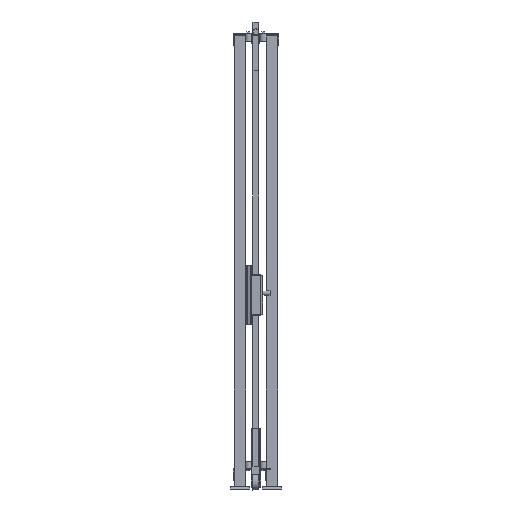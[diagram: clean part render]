
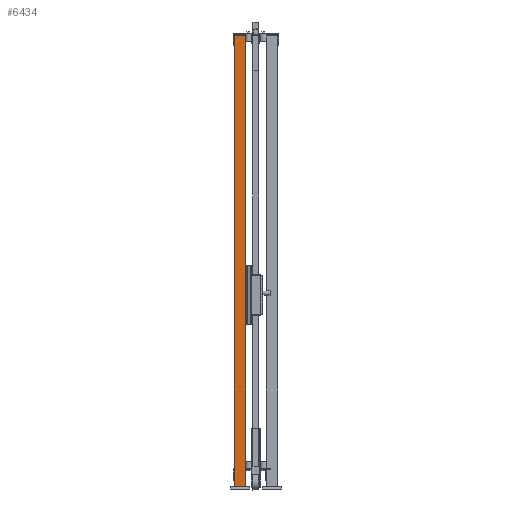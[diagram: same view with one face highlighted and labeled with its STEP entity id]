
A CAD part, left-side view. The second image highlights one B-rep face of the part: STEP entity #6434.
In plain terms, the highlighted planar face has unit normal (-1, 0, 0) as drawn and (0, 1, 0) by its records, which use the part's own axes.
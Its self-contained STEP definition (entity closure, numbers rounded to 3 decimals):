
#612=FACE_OUTER_BOUND('',#1132,.T.);
#1132=EDGE_LOOP('',(#4006,#4007,#4008,#4009));
#1718=VERTEX_POINT('',#14354);
#1719=VERTEX_POINT('',#14356);
#1721=VERTEX_POINT('',#14362);
#1724=VERTEX_POINT('',#14367);
#2584=EDGE_CURVE('',#1718,#1719,#7777,.T.);
#2590=EDGE_CURVE('',#1724,#1721,#7783,.T.);
#2593=EDGE_CURVE('',#1719,#1724,#7786,.T.);
#2594=EDGE_CURVE('',#1718,#1721,#7787,.T.);
#4006=ORIENTED_EDGE('',*,*,#2594,.T.);
#4007=ORIENTED_EDGE('',*,*,#2590,.F.);
#4008=ORIENTED_EDGE('',*,*,#2593,.F.);
#4009=ORIENTED_EDGE('',*,*,#2584,.F.);
#5984=PLANE('',#9921);
#6434=ADVANCED_FACE('',(#612),#5984,.F.);
#7777=LINE('',#14357,#8978);
#7783=LINE('',#14369,#8984);
#7786=LINE('',#14374,#8987);
#7787=LINE('',#14376,#8988);
#8978=VECTOR('',#11191,1.);
#8984=VECTOR('',#11199,1.);
#8987=VECTOR('',#11206,1.);
#8988=VECTOR('',#11209,1.);
#9921=AXIS2_PLACEMENT_3D('',#14375,#11207,#11208);
#11191=DIRECTION('',(-1.,0.,0.));
#11199=DIRECTION('',(1.,0.,0.));
#11206=DIRECTION('',(0.,0.,-1.));
#11207=DIRECTION('center_axis',(0.,-1.,0.));
#11208=DIRECTION('ref_axis',(0.,0.,-1.));
#11209=DIRECTION('',(0.,0.,-1.));
#14354=CARTESIAN_POINT('',(30.,30.,2320.));
#14356=CARTESIAN_POINT('',(-30.,30.,2320.));
#14357=CARTESIAN_POINT('',(0.,30.,2320.));
#14362=CARTESIAN_POINT('',(30.,30.,20.));
#14367=CARTESIAN_POINT('',(-30.,30.,20.));
#14369=CARTESIAN_POINT('',(0.,30.,20.));
#14374=CARTESIAN_POINT('',(-30.,30.,1170.));
#14375=CARTESIAN_POINT('Origin',(0.,30.,
1170.));
#14376=CARTESIAN_POINT('',(30.,30.,1170.));
